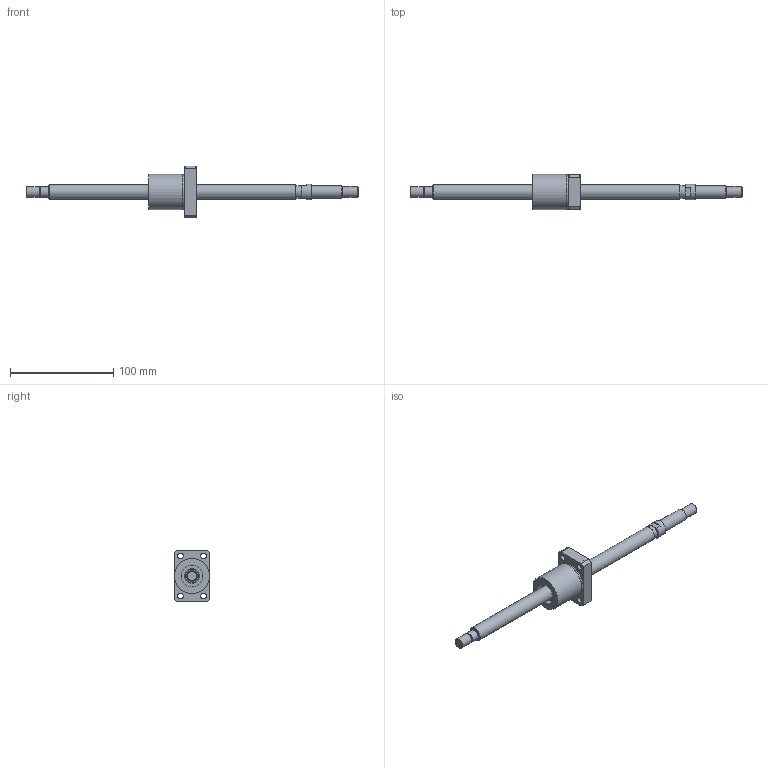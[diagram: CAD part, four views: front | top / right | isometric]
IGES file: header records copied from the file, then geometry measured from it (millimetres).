
Start section: Data from Parasolid IGES Translator 26.0.171, Copyright(c) 2006 Siemens PLM Software. All Rights Reserved.
Global section: file name: BNK1408-2.5RRG0+321LC5Y(142.50).igs; native system: By Siemens PLM Incorporated; preprocessor: XPlus GENERIC/IGES 26.0.171; author: Noname; organization: Noname; date: 20240709.091650; units: millimetre
Bounding box: 321 x 34 x 50 mm (x, y, z)
Surface area: 25764.6 mm2 (no closed solid volume)
Topology: 0 solids, 0 shells, 74 faces, 325 edges, 280 vertices
Faces by surface type: revolution 46, extrusion 28
